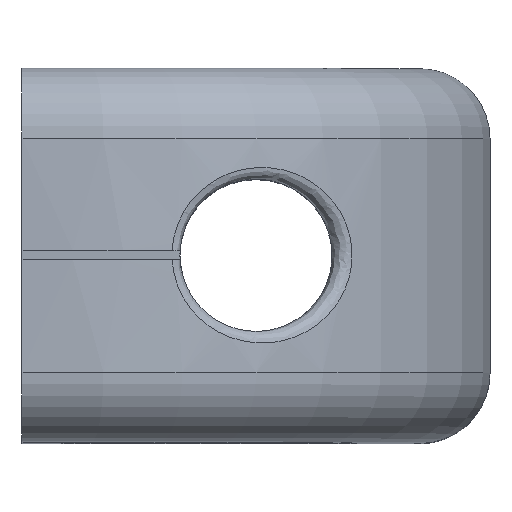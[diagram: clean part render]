
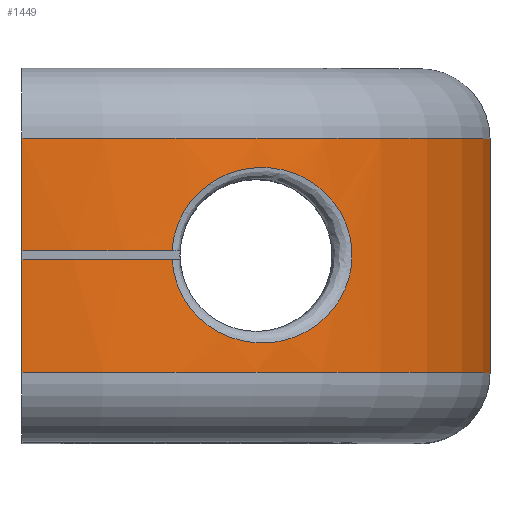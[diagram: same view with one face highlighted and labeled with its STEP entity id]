
A CAD part, top view. The second image highlights one B-rep face of the part: STEP entity #1449.
In plain terms, the highlighted cylindrical face has radius 20 mm (diameter 40 mm), a partial arc.
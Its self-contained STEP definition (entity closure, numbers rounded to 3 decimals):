
#92=B_SPLINE_CURVE_WITH_KNOTS('',3,(#2583,#2584,#2585,#2586,#2587,#2588,
#2589,#2590,#2591,#2592,#2593,#2594,#2595,#2596,#2597,#2598,#2599,#2600),
 .UNSPECIFIED.,.F.,.F.,(4,1,1,1,1,1,1,1,1,1,1,1,1,1,1,4),(-2.111,
-1.961,-1.811,-1.662,-1.512,
-1.362,-1.213,-1.113,-1.013,
-0.914,-0.764,-0.614,-0.539,
-0.315,-0.165,-0.016),
 .UNSPECIFIED.);
#155=LINE('',#2455,#251);
#159=LINE('',#2471,#255);
#167=LINE('',#2604,#263);
#251=VECTOR('',#1819,10.);
#255=VECTOR('',#1831,10.);
#263=VECTOR('',#1865,10.);
#323=CYLINDRICAL_SURFACE('',#1588,20.);
#365=FACE_OUTER_BOUND('',#453,.T.);
#453=EDGE_LOOP('',(#1152,#1153,#1154,#1155,#1156,#1157,#1158,#1159));
#548=CIRCLE('',#1580,20.);
#551=CIRCLE('',#1585,20.);
#553=CIRCLE('',#1589,20.);
#554=CIRCLE('',#1590,20.);
#651=VERTEX_POINT('',#2452);
#652=VERTEX_POINT('',#2454);
#659=VERTEX_POINT('',#2468);
#660=VERTEX_POINT('',#2470);
#664=VERTEX_POINT('',#2482);
#667=VERTEX_POINT('',#2525);
#670=VERTEX_POINT('',#2601);
#671=VERTEX_POINT('',#2603);
#819=EDGE_CURVE('',#652,#651,#155,.T.);
#827=EDGE_CURVE('',#660,#659,#159,.T.);
#835=EDGE_CURVE('',#651,#664,#548,.T.);
#839=EDGE_CURVE('',#667,#660,#551,.T.);
#845=EDGE_CURVE('',#667,#664,#92,.T.);
#846=EDGE_CURVE('',#670,#659,#553,.T.);
#847=EDGE_CURVE('',#670,#671,#167,.T.);
#848=EDGE_CURVE('',#652,#671,#554,.T.);
#1152=ORIENTED_EDGE('',*,*,#835,.T.);
#1153=ORIENTED_EDGE('',*,*,#845,.F.);
#1154=ORIENTED_EDGE('',*,*,#839,.T.);
#1155=ORIENTED_EDGE('',*,*,#827,.T.);
#1156=ORIENTED_EDGE('',*,*,#846,.F.);
#1157=ORIENTED_EDGE('',*,*,#847,.T.);
#1158=ORIENTED_EDGE('',*,*,#848,.F.);
#1159=ORIENTED_EDGE('',*,*,#819,.T.);
#1449=ADVANCED_FACE('',(#365),#323,.T.);
#1580=AXIS2_PLACEMENT_3D('',#2517,#1842,#1843);
#1585=AXIS2_PLACEMENT_3D('',#2526,#1853,#1854);
#1588=AXIS2_PLACEMENT_3D('',#2582,#1861,#1862);
#1589=AXIS2_PLACEMENT_3D('',#2602,#1863,#1864);
#1590=AXIS2_PLACEMENT_3D('',#2605,#1866,#1867);
#1819=DIRECTION('',(0.,-1.,0.));
#1831=DIRECTION('',(0.,-1.,0.));
#1842=DIRECTION('center_axis',(0.,1.,0.));
#1843=DIRECTION('ref_axis',(1.,0.,0.));
#1853=DIRECTION('center_axis',(0.,-1.,0.));
#1854=DIRECTION('ref_axis',(1.,0.,0.));
#1861=DIRECTION('center_axis',(0.,-1.,0.));
#1862=DIRECTION('ref_axis',(1.,0.,0.));
#1863=DIRECTION('center_axis',(0.,-1.,0.));
#1864=DIRECTION('ref_axis',(0.,0.,1.));
#1865=DIRECTION('',(0.,1.,0.));
#1866=DIRECTION('center_axis',(0.,1.,0.));
#1867=DIRECTION('ref_axis',(0.,0.,1.));
#2452=CARTESIAN_POINT('',(0.,0.19,20.));
#2454=CARTESIAN_POINT('',(0.,5.,20.));
#2455=CARTESIAN_POINT('',(0.,0.,20.));
#2468=CARTESIAN_POINT('',(0.,-5.,20.));
#2470=CARTESIAN_POINT('',(0.,-0.19,20.));
#2471=CARTESIAN_POINT('',(0.,0.,20.));
#2482=CARTESIAN_POINT('',(6.415,0.19,18.943));
#2517=CARTESIAN_POINT('Origin',(0.,0.19,0.));
#2525=CARTESIAN_POINT('',(6.415,-0.19,18.943));
#2526=CARTESIAN_POINT('Origin',(0.,-0.19,0.));
#2582=CARTESIAN_POINT('Origin',(0.,0.,0.));
#2583=CARTESIAN_POINT('Ctrl Pts',(6.415,-0.19,18.943));
#2584=CARTESIAN_POINT('Ctrl Pts',(6.447,-0.793,18.933));
#2585=CARTESIAN_POINT('Ctrl Pts',(6.817,-1.983,18.811));
#2586=CARTESIAN_POINT('Ctrl Pts',(8.112,-3.27,18.307));
#2587=CARTESIAN_POINT('Ctrl Pts',(9.736,-3.829,17.504));
#2588=CARTESIAN_POINT('Ctrl Pts',(11.338,-3.704,16.51));
#2589=CARTESIAN_POINT('Ctrl Pts',(12.726,-3.007,15.457));
#2590=CARTESIAN_POINT('Ctrl Pts',(13.664,-1.92,14.614));
#2591=CARTESIAN_POINT('Ctrl Pts',(14.118,-0.621,14.167));
#2592=CARTESIAN_POINT('Ctrl Pts',(14.118,0.622,14.166));
#2593=CARTESIAN_POINT('Ctrl Pts',(13.664,1.919,14.614));
#2594=CARTESIAN_POINT('Ctrl Pts',(12.727,3.007,15.457));
#2595=CARTESIAN_POINT('Ctrl Pts',(11.568,3.587,16.334));
#2596=CARTESIAN_POINT('Ctrl Pts',(10.026,3.858,17.344));
#2597=CARTESIAN_POINT('Ctrl Pts',(8.332,3.486,18.223));
#2598=CARTESIAN_POINT('Ctrl Pts',(6.815,1.983,18.811));
#2599=CARTESIAN_POINT('Ctrl Pts',(6.447,0.793,18.933));
#2600=CARTESIAN_POINT('Ctrl Pts',(6.415,0.19,18.943));
#2601=CARTESIAN_POINT('',(20.,-5.,0.));
#2602=CARTESIAN_POINT('Origin',(0.,-5.,0.));
#2603=CARTESIAN_POINT('',(20.,5.,0.));
#2604=CARTESIAN_POINT('',(20.,0.,0.));
#2605=CARTESIAN_POINT('Origin',(0.,5.,0.));
